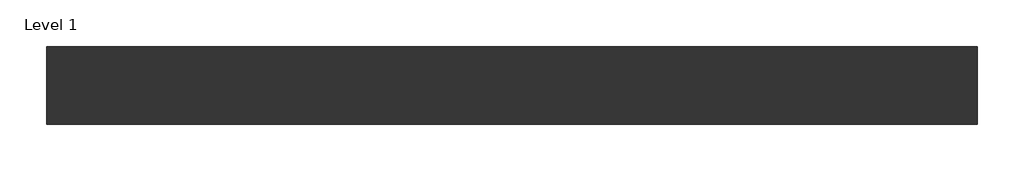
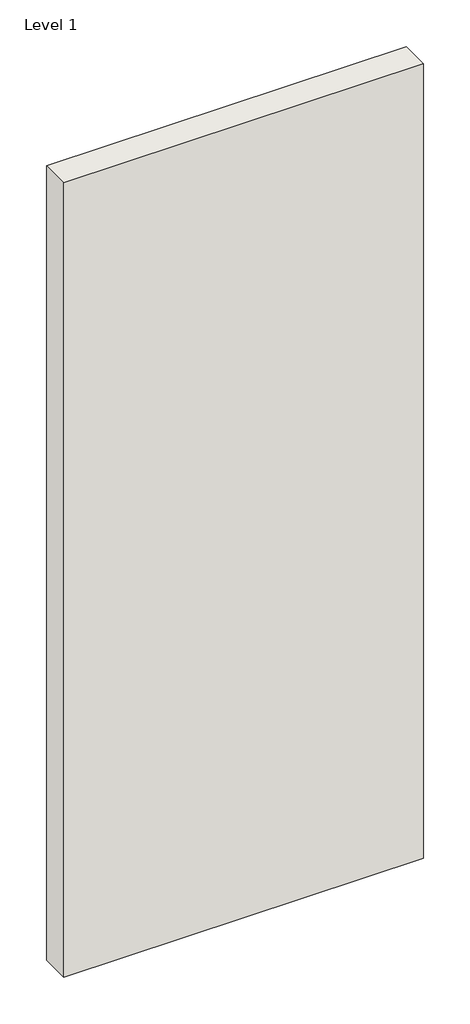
# One storey: 1 wall.
"""IFC4 building model written with IfcOpenShell, lengths in millimetres."""

from ifc_helpers import new_model, si_unit, origin, origin_with_axes, place, context, project, spatial, polyline, outline, extrude, element, save

model = new_model("IFC4")

# Units and contexts
model_context = context("Model", 3, world=origin())
ifc_project = project(units=[si_unit("LENGTHUNIT", "METRE", prefix="MILLI")], contexts=[model_context])

# Site, building, storey
site = spatial("IfcSite", under=ifc_project)
building = spatial("IfcBuilding", under=site)
storey = spatial("IfcBuildingStorey", under=building, Name="Level 1", Elevation=0.0)

# Wall
placement = place(None, origin())
element("IfcWall", 1, ObjectType="Tabique Simple – Placo® 100(70) BA15 + 70LM + PPM15 c/400 - 45,7 dBA", at=placement, inside=storey, context=model_context, shape_type="SweptSolid", body=[
    extrude(outline(polyline([(-27546.4711674, -76079.0523199), (-28746.4711674, -76079.0523199), (-28746.4711674, -75979.0523199), (-27546.4711674, -75979.0523199), (-27546.4711674, -76079.0523199)])), origin_with_axes(), (0.0, 0.0, 1.0), 2800.0),
])

save(model, "model.ifc")
